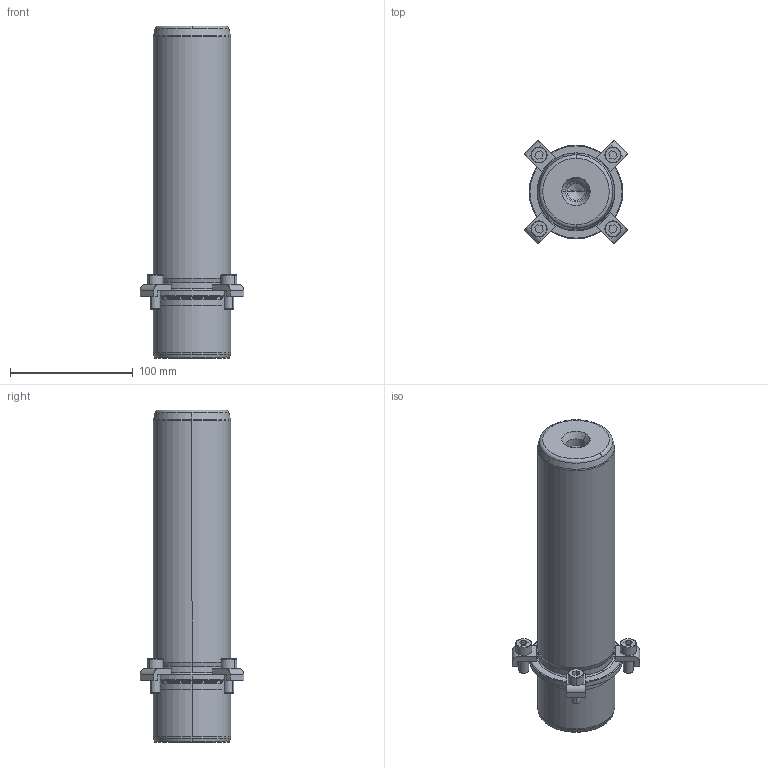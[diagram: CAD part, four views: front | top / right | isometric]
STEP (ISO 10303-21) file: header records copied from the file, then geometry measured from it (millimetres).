
FILE_DESCRIPTION((''),'2;1');
FILE_NAME('P21_063_220.stp','2008-12-23T09:22:04',(''),(''),'Mechanical Desktop 2009','Mechanical Desktop 2009',', , ');
FILE_SCHEMA(('CONFIG_CONTROL_DESIGN'));
Length unit declared in the file: millimetre
Products named in the file (2): Product; blmdl1
Assembly tree (1 placements, depth 2):
  Product
    blmdl1
Bounding box: 84.5 x 84.5 x 270 mm (x, y, z)
Volume: 841037.8 mm3; surface area: 75065.9 mm2
Topology: 9 solids, 9 shells, 195 faces, 477 edges, 309 vertices
Faces by surface type: plane 77, cylinder 52, cone 34, torus 16, bspline 16
Entity records: 6547 total; most frequent: CARTESIAN_POINT 1683, DIRECTION 1078, ORIENTED_EDGE 946, EDGE_CURVE 473, AXIS2_PLACEMENT_3D 424, VERTEX_POINT 309, CIRCLE 243, VECTOR 230
